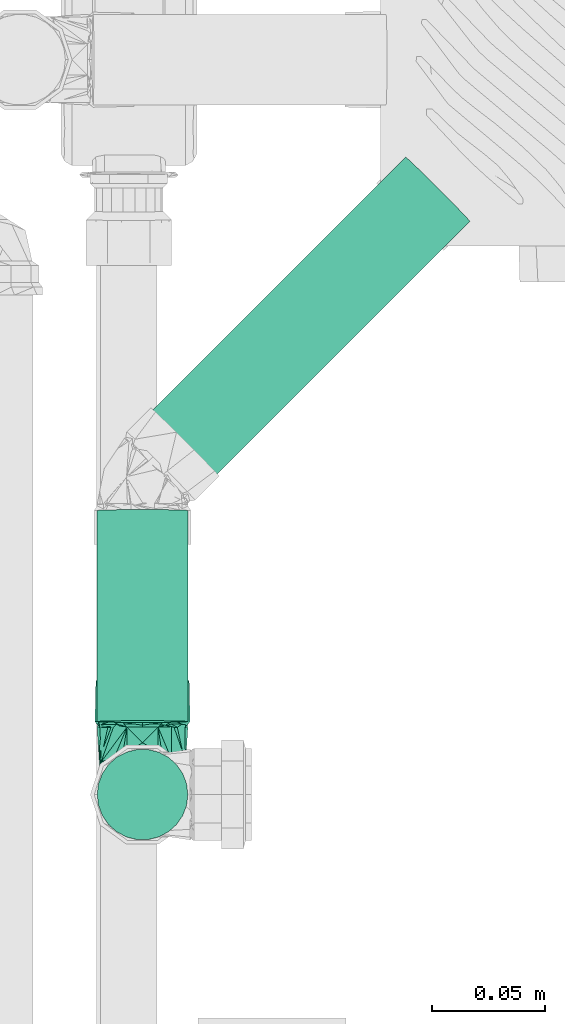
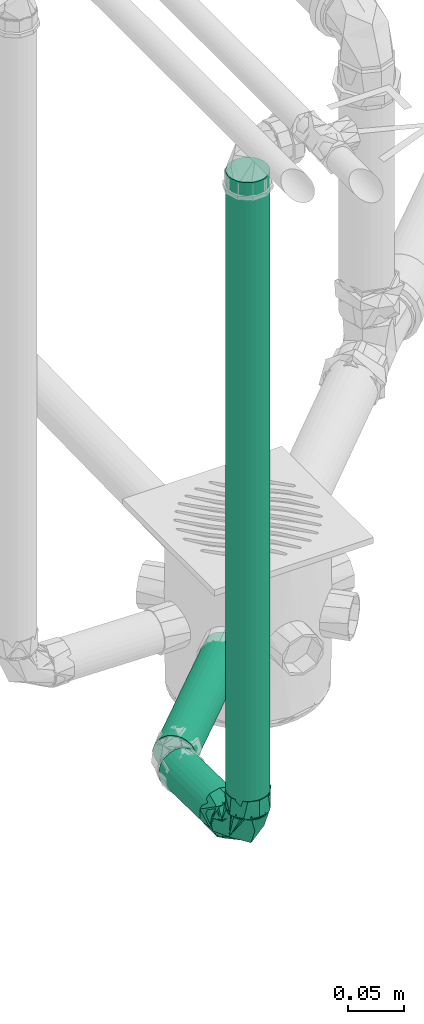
# One storey, part 194 of 589: 3 flow segments, 1 flow fitting.
"""IFC2X3 building model written with IfcOpenShell, lengths in millimetres."""

from ifc_helpers import new_model, entity, si_unit, converted_unit, derived_unit, direction, frame, frame_2d, origin, place, context, subcontext, project, spatial, circle, extrude, faceted_brep, source, transform, mapped, material, type_object, type_shapes, element, save


model = new_model("IFC2X3")

# Units and contexts
model_context = context("Model", 3, precision=0.01, world=origin(), true_north=direction((6.123031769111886e-17, 1.0)))
body_context = subcontext(model_context, "Body", "Model", "MODEL_VIEW")
ifc_project = project(units=[si_unit("LENGTHUNIT", "METRE", prefix="MILLI"), si_unit("AREAUNIT", "SQUARE_METRE"), si_unit("VOLUMEUNIT", "CUBIC_METRE"), converted_unit("PLANEANGLEUNIT", "DEGREE", entity("IfcRatioMeasure", 0.017453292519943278), si_unit("PLANEANGLEUNIT", "RADIAN"), dimensions=[0, 0, 0, 0, 0, 0, 0]), si_unit("MASSUNIT", "GRAM", prefix="KILO"), derived_unit("MASSDENSITYUNIT", [(si_unit("MASSUNIT", "GRAM", prefix="KILO"), 1), (si_unit("LENGTHUNIT", "METRE"), -3)]), derived_unit("IONCONCENTRATIONUNIT", [(si_unit("MASSUNIT", "GRAM", prefix="KILO"), 1), (si_unit("LENGTHUNIT", "METRE"), -3)]), derived_unit("MOMENTOFINERTIAUNIT", [(si_unit("LENGTHUNIT", "METRE"), 4)]), si_unit("TIMEUNIT", "SECOND"), si_unit("FREQUENCYUNIT", "HERTZ"), si_unit("THERMODYNAMICTEMPERATUREUNIT", "DEGREE_CELSIUS"), derived_unit("THERMALTRANSMITTANCEUNIT", [(si_unit("MASSUNIT", "GRAM", prefix="KILO"), 1), (si_unit("THERMODYNAMICTEMPERATUREUNIT", "KELVIN"), -1), (si_unit("TIMEUNIT", "SECOND"), -3)]), derived_unit("THERMALCONDUCTANCEUNIT", [(si_unit("MASSUNIT", "GRAM", prefix="KILO"), 1), (si_unit("THERMODYNAMICTEMPERATUREUNIT", "KELVIN"), -1), (si_unit("TIMEUNIT", "SECOND"), -3), (si_unit("LENGTHUNIT", "METRE"), 1)]), derived_unit("VOLUMETRICFLOWRATEUNIT", [(si_unit("LENGTHUNIT", "METRE"), 3), (si_unit("TIMEUNIT", "SECOND"), -1)]), derived_unit("MASSFLOWRATEUNIT", [(si_unit("MASSUNIT", "GRAM", prefix="KILO"), 1), (si_unit("TIMEUNIT", "SECOND"), -1)]), derived_unit("ROTATIONALFREQUENCYUNIT", [(si_unit("TIMEUNIT", "SECOND"), -1)]), si_unit("ELECTRICCURRENTUNIT", "AMPERE"), si_unit("ELECTRICVOLTAGEUNIT", "VOLT"), si_unit("POWERUNIT", "WATT"), si_unit("FORCEUNIT", "NEWTON", prefix="KILO"), si_unit("ILLUMINANCEUNIT", "LUX"), si_unit("LUMINOUSFLUXUNIT", "LUMEN"), si_unit("LUMINOUSINTENSITYUNIT", "CANDELA"), derived_unit("USERDEFINED", [(si_unit("MASSUNIT", "GRAM", prefix="KILO"), -1), (si_unit("LENGTHUNIT", "METRE"), -2), (si_unit("TIMEUNIT", "SECOND"), 3), (si_unit("LUMINOUSFLUXUNIT", "LUMEN"), 1)]), derived_unit("USERDEFINED", [(si_unit("MASSUNIT", "GRAM", prefix="KILO"), 1), (si_unit("TIMEUNIT", "SECOND"), -3), (si_unit("LENGTHUNIT", "METRE"), 3), (si_unit("ELECTRICCURRENTUNIT", "AMPERE"), -2)]), derived_unit("SOUNDPOWERUNIT", [(si_unit("MASSUNIT", "GRAM", prefix="KILO"), 1), (si_unit("TIMEUNIT", "SECOND"), -3), (si_unit("LENGTHUNIT", "METRE"), 2)]), derived_unit("SOUNDPRESSUREUNIT", [(si_unit("MASSUNIT", "GRAM", prefix="KILO"), 1), (si_unit("LENGTHUNIT", "METRE"), -1), (si_unit("TIMEUNIT", "SECOND"), -2)]), derived_unit("LINEARVELOCITYUNIT", [(si_unit("LENGTHUNIT", "METRE"), 1), (si_unit("TIMEUNIT", "SECOND"), -1)]), si_unit("PRESSUREUNIT", "PASCAL"), derived_unit("USERDEFINED", [(si_unit("MASSUNIT", "GRAM", prefix="KILO"), 1), (si_unit("LENGTHUNIT", "METRE"), -2), (si_unit("TIMEUNIT", "SECOND"), -2)]), derived_unit("LINEARFORCEUNIT", [(si_unit("MASSUNIT", "GRAM", prefix="KILO"), 1), (si_unit("TIMEUNIT", "SECOND"), -2)]), derived_unit("PLANARFORCEUNIT", [(si_unit("MASSUNIT", "GRAM", prefix="KILO"), 1), (si_unit("LENGTHUNIT", "METRE"), -1), (si_unit("TIMEUNIT", "SECOND"), -2)]), derived_unit("SPECIFICHEATCAPACITYUNIT", [(si_unit("THERMODYNAMICTEMPERATUREUNIT", "KELVIN"), -1), (si_unit("LENGTHUNIT", "METRE"), 2), (si_unit("TIMEUNIT", "SECOND"), -2)]), derived_unit("HEATINGVALUEUNIT", [(si_unit("LENGTHUNIT", "METRE"), 2), (si_unit("TIMEUNIT", "SECOND"), -2)]), derived_unit("VAPORPERMEABILITYUNIT", [(si_unit("LENGTHUNIT", "METRE"), -1), (si_unit("TIMEUNIT", "SECOND"), 1)]), derived_unit("DYNAMICVISCOSITYUNIT", [(si_unit("MASSUNIT", "GRAM", prefix="KILO"), 1), (si_unit("TIMEUNIT", "SECOND"), -1), (si_unit("LENGTHUNIT", "METRE"), -1)]), derived_unit("THERMALEXPANSIONCOEFFICIENTUNIT", [(si_unit("THERMODYNAMICTEMPERATUREUNIT", "KELVIN"), -1)]), derived_unit("MODULUSOFELASTICITYUNIT", [(si_unit("MASSUNIT", "GRAM", prefix="KILO"), 1), (si_unit("LENGTHUNIT", "METRE"), -1), (si_unit("TIMEUNIT", "SECOND"), -2)]), derived_unit("ISOTHERMALMOISTURECAPACITYUNIT", [(si_unit("LENGTHUNIT", "METRE"), 3), (si_unit("MASSUNIT", "GRAM", prefix="KILO"), -1)]), derived_unit("MOISTUREDIFFUSIVITYUNIT", [(si_unit("TIMEUNIT", "SECOND"), -1), (si_unit("LENGTHUNIT", "METRE"), 2)])], contexts=[model_context])

# Site, building, storey
site_placement = place(None, origin())
site = spatial("IfcSite", under=ifc_project, at=site_placement, Name="Default", CompositionType="ELEMENT")
building_placement = place(site_placement, origin())
building = spatial("IfcBuilding", under=site, at=building_placement, CompositionType="ELEMENT")
storey_placement = place(building_placement, frame((0.0, 0.0, 100.0)))
storey = spatial("IfcBuildingStorey", under=building, at=storey_placement, Name="TÉRREO", CompositionType="ELEMENT", Elevation=100.0)

# Flow segments
pipe_segment_type = type_object("IfcPipeSegmentType", Name="Tipos de tubos:PVC Esgoto Série Normal", PredefinedType="NOTDEFINED")
flow_segment_1_placement = place(storey_placement, origin())
element("IfcFlowSegment", 1, at=flow_segment_1_placement, inside=storey, type_object=pipe_segment_type, Name="Tipos de tubos:PVC Esgoto Série Normal", ObjectType="Tipos de tubos:PVC Esgoto Série Normal", context=body_context, shape_type="SweptSolid", body=[
    extrude(circle(Radius=20.0, at=frame_2d((9.571283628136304e-14, -1.5002541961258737e-14), x_axis=(1.0, 0.0))), frame((7370.017480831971, -654.9828076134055, -250.88561498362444), z_axis=(0.7069654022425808, 0.7069654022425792, -0.019996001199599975), x_axis=(-0.7071067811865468, 0.7071067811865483, 0.0)), (0.0, 0.0, 1.0), 172.6549831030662),
])
flow_segment_2_placement = place(storey_placement, origin())
element("IfcFlowSegment", 2, at=flow_segment_2_placement, inside=storey, type_object=pipe_segment_type, Name="Tipos de tubos:PVC Esgoto Série Normal", ObjectType="Tipos de tubos:PVC Esgoto Série Normal", context=body_context, shape_type="SweptSolid", body=[
    extrude(circle(Radius=20.0, at=frame_2d((0.0, -1.6916415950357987e-14), x_axis=(1.0, 0.0))), frame((7361.889890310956, -767.6769709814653, -248.56440055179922), z_axis=(0.0, 0.9998000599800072, -0.01999600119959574), x_axis=(1.0, 0.0, 0.0)), (0.0, 0.0, 1.0), 93.09103672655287),
])
flow_segment_3_placement = place(storey_placement, origin())
element("IfcFlowSegment", 3, at=flow_segment_3_placement, inside=storey, type_object=pipe_segment_type, Name="Tipos de tubos:PVC Esgoto Série Normal", ObjectType="Tipos de tubos:PVC Esgoto Série Normal", context=body_context, shape_type="SweptSolid", body=[
    extrude(circle(Radius=20.0, at=frame_2d((1.9993378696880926e-18, 0.0), x_axis=(1.0, 0.0))), frame((7361.889890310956, -799.8765311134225, -215.71440994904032)), (0.0, 0.0, 1.0), 693.914410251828),
])

# Flow fitting
ifc_material = material(Name="PVC Branco")
pipe_fitting_type = type_object("IfcPipeFittingType", Name="PVC Esgoto_Curva 90° Curta:a. Série Normal", PredefinedType="NOTDEFINED", material=ifc_material)
shared_shape = source(origin(), body_context, "Body", "Brep", [
    faceted_brep([(17.961036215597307, 31.85321923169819, 10.0), (20.63999240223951, 31.79964010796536, 0.0), (17.961036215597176, 31.853219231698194, -10.0), (5.819337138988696, 32.09605321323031, -19.318516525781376), (-4.531354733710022, 32.30306705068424, -19.31851652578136), (-16.67305381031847, 32.545901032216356, -10.0), (-19.352009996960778, 32.59948015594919, 0.0), (-16.673053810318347, 32.54590103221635, 10.0), (-4.531354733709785, 32.303067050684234, 19.318516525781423), (5.819337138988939, 32.096053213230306, 19.318516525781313), (19.378093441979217, 29.02431814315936, 6.84041311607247), (15.905813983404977, 29.093763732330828, 12.855768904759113), (20.584003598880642, 29.000199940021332, 0.0), (7.427001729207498, 29.263339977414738, 18.793865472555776), (0.5880023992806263, 29.40011996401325, 20.0), (-12.265223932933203, 29.657184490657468, 15.320851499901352), (-18.202100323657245, 29.775922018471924, 6.840381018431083), (-19.407998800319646, 29.800039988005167, 0.0), (-6.251109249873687, 29.536902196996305, 18.79382458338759), (-18.202100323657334, 29.775922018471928, -6.840381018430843), (-14.729853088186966, 29.70647707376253, -12.855716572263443), (-6.25110924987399, 29.53690219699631, -18.79382458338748), (0.588002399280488, 29.40011996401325, -20.0), (13.441163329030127, 29.143056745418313, -15.32090639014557), (19.378093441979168, 29.02431814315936, -6.8404131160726), (7.427001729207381, 29.263339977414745, -18.79386547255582), (-11.35075352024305, -12.626805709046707, 0.0), (-29.405999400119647, -18.793848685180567, 6.8404131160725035), (-29.405999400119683, -19.396924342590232, 3.420206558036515), (-29.405999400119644, -20.0, 0.0), (-29.40599940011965, -15.320874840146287, 12.855768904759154), (-29.405999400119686, -17.057361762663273, 9.848091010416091), (-2.3339581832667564, 2.3811033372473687, 18.02101843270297), (-29.40599940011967, -6.840366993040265, 18.793865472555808), (-29.405999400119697, -11.080620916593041, 15.824817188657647), (-29.405999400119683, 0.0, 20.0), (-29.40599940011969, -3.420183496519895, 19.396932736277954), (-12.878045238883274, 13.138181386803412, 18.95216884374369), (12.851249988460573, 11.095996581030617, 0.0), (5.594072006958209, -5.707072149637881, 0.0), (-29.405999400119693, 6.840479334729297, 18.79382458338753), (-29.405999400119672, 3.4202396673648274, 19.396912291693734), (-29.405999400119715, 18.793860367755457, 6.840381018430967), (-29.405999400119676, 15.824828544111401, 11.080616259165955), (-29.405999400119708, 12.855796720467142, 15.320851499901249), (-22.405985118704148, 22.858585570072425, 0.0), (-29.40599940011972, 20.0, 0.0), (-29.405999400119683, 19.396930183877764, 3.4201905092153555), (-29.405999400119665, 9.848138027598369, 17.0573380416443), (-14.138248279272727, 14.423838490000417, -18.24666465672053), (-29.405999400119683, 0.0, -20.0), (-29.40599940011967, 3.4202396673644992, -19.396912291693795), (-29.405999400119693, 6.840479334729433, -18.79382458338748), (-29.405999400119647, -18.79384868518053, -6.840413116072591), (-29.40599940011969, -15.824789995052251, -11.080659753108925), (-29.405999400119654, -12.85573130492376, -15.32090639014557), (-2.333957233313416, 2.3811024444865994, -18.021017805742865), (-29.405999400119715, 18.793860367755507, -6.840381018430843), (-29.405999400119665, 11.080699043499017, -15.824770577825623), (-29.405999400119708, 15.320918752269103, -12.855716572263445), (-29.405999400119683, -19.396924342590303, -3.420206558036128), (-29.405999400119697, -9.848049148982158, -17.0573859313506), (-29.40599940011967, -6.840366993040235, -18.79386547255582), (-29.40599940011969, -3.420183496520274, -19.396932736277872), (-29.405999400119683, 19.39693018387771, -3.4201905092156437), (-29.405999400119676, 17.05738956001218, -9.848048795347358), (-30.20599940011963, -8.21241269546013, -16.988887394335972), (-30.20599940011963, -11.248444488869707, -14.659258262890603), (-30.20599940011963, -14.28447628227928, -12.329629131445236), (-30.20599940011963, -17.320508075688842, -10.0), (-30.20599940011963, -18.66025403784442, -5.0), (-30.20599940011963, -20.0, 0.0), (-30.20599940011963, -18.660254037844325, 5.0), (-30.20599940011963, -17.320508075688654, 10.0), (-30.20599940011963, -14.284476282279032, 12.329629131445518), (-30.20599940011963, -11.248444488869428, 14.659258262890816), (-30.20599940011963, -8.21241269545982, 16.988887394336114), (-30.20599940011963, -5.1763809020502, 19.318516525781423), (-30.20599940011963, 0.0, 19.31851652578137), (-30.20599940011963, 5.176380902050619, 19.318516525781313), (-30.20599940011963, 8.21241269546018, 16.98888739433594), (-30.20599940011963, 11.248444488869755, 14.65925826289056), (-30.205999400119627, 14.284476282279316, 12.329629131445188), (-30.20599940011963, 17.320508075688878, 10.0), (-30.20599940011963, 18.66025403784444, 5.0), (-30.20599940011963, 20.0, 0.0), (-30.20599940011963, 18.66025403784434, -5.0), (-30.20599940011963, 17.32050807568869, -10.0), (-30.20599940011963, 14.284476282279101, -12.329629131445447), (-30.20599940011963, 11.24844448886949, -14.659258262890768), (-30.20599940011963, 8.212412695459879, -16.988887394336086), (-30.20599940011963, 5.1763809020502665, -19.318516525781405), (-30.20599940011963, 0.0, -19.318516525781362), (-30.20599940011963, -5.176380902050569, -19.318516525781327)], [[[0, 1, 2, 3, 4, 5, 6, 7, 8, 9]], [[10, 1, 0]], [[11, 0, 9]], [[12, 1, 10]], [[11, 10, 0]], [[13, 11, 9]], [[9, 14, 13]], [[15, 8, 7]], [[7, 6, 16]], [[17, 16, 6]], [[14, 8, 18]], [[15, 18, 8]], [[16, 15, 7]], [[8, 14, 9]], [[19, 6, 5]], [[20, 5, 4]], [[17, 6, 19]], [[20, 19, 5]], [[21, 20, 4]], [[4, 22, 21]], [[23, 3, 2]], [[2, 1, 24]], [[12, 24, 1]], [[22, 3, 25]], [[23, 25, 3]], [[24, 23, 2]], [[3, 22, 4]], [[26, 27, 28, 29]], [[26, 30, 31, 27]], [[32, 33, 34, 30]], [[32, 35, 36, 33]], [[35, 32, 37]], [[11, 38, 10]], [[26, 32, 30]], [[32, 39, 38]], [[37, 40, 41, 35]], [[37, 42, 43, 44]], [[45, 46, 47, 42]], [[16, 45, 42]], [[37, 44, 48, 40]], [[39, 32, 26]], [[14, 18, 37]], [[32, 11, 13]], [[14, 37, 32]], [[32, 38, 11]], [[12, 10, 38]], [[45, 16, 17]], [[37, 15, 16]], [[37, 16, 42]], [[15, 37, 18]], [[32, 13, 14]], [[49, 50, 51, 52]], [[49, 21, 22]], [[26, 53, 54, 55]], [[56, 39, 26]], [[49, 57, 19]], [[49, 52, 58, 59]], [[56, 50, 49]], [[26, 29, 60, 53]], [[56, 55, 61, 62]], [[56, 62, 63, 50]], [[26, 55, 56]], [[45, 57, 64, 46]], [[45, 17, 19]], [[24, 12, 38]], [[23, 56, 25]], [[49, 20, 21]], [[49, 19, 20]], [[56, 49, 22]], [[56, 23, 38]], [[49, 59, 65, 57]], [[38, 39, 56]], [[24, 38, 23]], [[56, 22, 25]], [[19, 57, 45]], [[66, 67, 68, 69, 70, 71, 72, 73, 74, 75, 76, 77, 78, 79, 80, 81, 82, 83, 84, 85, 86, 87, 88, 89, 90, 91, 92, 93]], [[47, 46, 85]], [[33, 77, 76]], [[80, 40, 48]], [[48, 44, 81]], [[33, 76, 34]], [[81, 80, 48]], [[84, 83, 42]], [[82, 81, 44]], [[73, 72, 27]], [[85, 84, 47]], [[78, 41, 79]], [[77, 36, 78]], [[30, 75, 74, 73]], [[73, 27, 31, 30]], [[77, 33, 36]], [[71, 28, 72]], [[44, 43, 82]], [[36, 35, 78]], [[41, 40, 79]], [[34, 76, 75]], [[43, 42, 83]], [[75, 30, 34]], [[41, 78, 35]], [[84, 42, 47]], [[80, 79, 40]], [[43, 83, 82]], [[28, 71, 29]], [[28, 27, 72]], [[60, 29, 71]], [[52, 91, 90]], [[66, 62, 61]], [[61, 55, 67]], [[52, 90, 58]], [[67, 66, 61]], [[70, 69, 53]], [[68, 67, 55]], [[87, 86, 57]], [[71, 70, 60]], [[92, 63, 93]], [[91, 51, 92]], [[59, 89, 88, 87]], [[87, 57, 65, 59]], [[91, 52, 51]], [[85, 64, 86]], [[55, 54, 68]], [[51, 50, 92]], [[63, 62, 93]], [[90, 89, 58]], [[54, 53, 69]], [[89, 59, 58]], [[63, 92, 50]], [[70, 53, 60]], [[66, 93, 62]], [[54, 69, 68]], [[64, 85, 46]], [[64, 57, 86]]]),
    faceted_brep([(-32.20599940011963, -17.320508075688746, -10.0), (-32.20599940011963, -20.0, 0.0), (-32.20599940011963, -17.320508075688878, 10.0), (-32.20599940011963, -5.176380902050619, 19.318516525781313), (-32.20599940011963, 5.1763809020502, 19.318516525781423), (-32.20599940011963, 17.320508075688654, 10.0), (-32.20599940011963, 20.0, 0.0), (-32.20599940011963, 17.320508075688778, -10.0), (-32.20599940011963, 5.17638090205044, -19.31851652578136), (-32.20599940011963, -5.176380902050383, -19.318516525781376), (-29.40599940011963, -20.0, 0.0), (-29.40599940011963, -15.320920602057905, 12.855714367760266), (-29.40599940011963, 3.4728419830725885, 19.696176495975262), (-29.40599940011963, 15.320777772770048, 12.855884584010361), (-29.40599940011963, 20.0, 0.0), (-29.40599940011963, 15.320777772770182, -12.855884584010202), (-29.405999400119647, 5.923858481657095, -16.27601124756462), (-29.40599940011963, -3.473060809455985, -19.69613791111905), (-29.40599940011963, -15.320920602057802, -12.855714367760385), (12.85124998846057, 11.095996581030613, 0.0), (19.378093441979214, 29.024318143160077, 6.8404131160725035), (16.409628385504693, 29.083687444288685, 11.080659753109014), (13.441163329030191, 29.143056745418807, 15.320906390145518), (5.594072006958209, -5.707072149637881, 0.0), (-3.0189256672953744, 1.4413580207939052, 17.919138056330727), (-11.350753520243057, -12.626805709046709, 0.0), (-13.807968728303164, 12.593198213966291, 18.87014454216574), (-6.251109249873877, 29.53690219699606, 18.793824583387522), (-10.490481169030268, 29.621689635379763, 15.824770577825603), (-14.729853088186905, 29.70647707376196, 12.855716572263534), (-22.405985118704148, 22.858585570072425, 0.0), (-18.20210032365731, 29.775922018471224, 6.84038101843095), (-18.805049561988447, 29.787981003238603, 3.4201905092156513), (-19.407998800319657, 29.80003998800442, 0.0), (7.427001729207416, 29.26333997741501, 18.793865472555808), (4.007502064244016, 29.331729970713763, 19.396932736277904), (0.5880023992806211, 29.400119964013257, 20.0), (10.434082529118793, 29.203198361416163, 17.057385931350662), (20.58400359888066, 29.000199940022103, 0.0), (19.981048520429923, 29.012259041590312, 3.420206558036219), (-2.8315534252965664, 29.46851108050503, 19.396912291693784), (-16.465976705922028, 29.74119954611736, 9.84804879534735), (-12.878069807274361, 13.13814230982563, -18.95217245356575), (-12.265223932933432, 29.657184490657, -15.32085149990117), (-9.258166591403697, 29.59704334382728, -17.057338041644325), (-6.251109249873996, 29.53690219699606, -18.79382458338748), (-18.202100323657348, 29.775922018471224, -6.840381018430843), (-2.142006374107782, 2.6554433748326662, -18.049846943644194), (-18.80504956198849, 29.787981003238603, -3.4201905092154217), (-15.233662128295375, 29.716553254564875, -11.080616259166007), (19.378093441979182, 29.02431814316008, -6.840413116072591), (19.981048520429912, 29.012259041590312, -3.4202065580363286), (0.5880023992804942, 29.400119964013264, -20.0), (4.0075020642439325, 29.331729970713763, -19.396932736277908), (7.427001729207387, 29.26333997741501, -18.79386547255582), (11.666407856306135, 29.178551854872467, -15.824817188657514), (15.905813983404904, 29.09376373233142, -12.855768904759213), (17.64195371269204, 29.05904093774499, -9.8480910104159), (-2.831553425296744, 29.46851108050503, -19.39691229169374), (-4.571346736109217, 30.303466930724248, -19.31851652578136), (-7.60677150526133, 30.364175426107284, -16.988887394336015), (-10.64219627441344, 30.424883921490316, -14.659258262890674), (-13.677621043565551, 30.48559241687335, -12.329629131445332), (-16.713045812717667, 30.54630091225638, -10.0), (-18.052523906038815, 30.573090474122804, -5.0), (-19.392001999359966, 30.599880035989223, 0.0), (-18.052523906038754, 30.573090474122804, 5.0), (-16.71304581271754, 30.54630091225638, 10.0), (-13.67762104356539, 30.48559241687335, 12.329629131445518), (-10.642196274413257, 30.424883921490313, 14.659258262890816), (-7.606771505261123, 30.364175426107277, 16.988887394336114), (-4.571346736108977, 30.303466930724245, 19.318516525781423), (0.6039992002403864, 30.199960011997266, 19.31851652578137), (5.779345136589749, 30.096453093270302, 19.318516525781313), (8.814769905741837, 30.035744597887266, 16.98888739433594), (11.85019467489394, 29.975036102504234, 14.65925826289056), (14.885619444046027, 29.9143276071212, 12.329629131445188), (17.92104421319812, 29.853619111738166, 10.0), (19.26052230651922, 29.82682954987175, 5.0), (20.60000039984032, 29.80003998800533, 0.0), (19.260522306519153, 29.82682954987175, -5.0), (17.921044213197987, 29.85361911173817, -10.0), (14.885619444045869, 29.914327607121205, -12.329629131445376), (11.850194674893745, 29.975036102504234, -14.659258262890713), (8.814769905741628, 30.03574459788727, -16.988887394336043), (5.779345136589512, 30.096453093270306, -19.318516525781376), (0.6039992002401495, 30.199960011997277, -19.31851652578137)], [[[0, 1, 2, 3, 4, 5, 6, 7, 8, 9]], [[10, 11, 2]], [[10, 2, 1]], [[2, 11, 3]], [[11, 12, 3]], [[4, 12, 13]], [[5, 13, 14]], [[13, 5, 4]], [[5, 14, 6]], [[12, 4, 3]], [[14, 15, 7]], [[14, 7, 6]], [[7, 15, 8]], [[8, 15, 16, 17]], [[9, 17, 18]], [[0, 18, 10]], [[18, 0, 9]], [[0, 10, 1]], [[17, 9, 8]], [[19, 20, 21, 22]], [[23, 24, 25]], [[26, 13, 12]], [[25, 24, 11]], [[24, 23, 19]], [[26, 27, 28, 29]], [[14, 13, 30]], [[11, 10, 25]], [[30, 31, 32, 33]], [[31, 30, 13]], [[24, 34, 35, 36]], [[24, 26, 12]], [[24, 22, 37, 34]], [[11, 24, 12]], [[19, 38, 39, 20]], [[26, 36, 40, 27]], [[13, 29, 41, 31]], [[13, 26, 29]], [[36, 26, 24]], [[22, 24, 19]], [[15, 14, 30]], [[42, 43, 44, 45]], [[15, 30, 46]], [[16, 15, 42, 17]], [[47, 25, 18]], [[47, 18, 17]], [[42, 15, 46]], [[30, 33, 48, 46]], [[42, 46, 49, 43]], [[19, 50, 51, 38]], [[47, 52, 53, 54]], [[47, 54, 55, 56]], [[42, 52, 47]], [[19, 56, 57, 50]], [[25, 47, 23]], [[19, 23, 47]], [[25, 10, 18]], [[19, 47, 56]], [[17, 42, 47]], [[42, 45, 58, 52]], [[59, 60, 61, 62, 63, 64, 65, 66, 67, 68, 69, 70, 71, 72, 73, 74, 75, 76, 77, 78, 79, 80, 81, 82, 83, 84, 85, 86]], [[39, 38, 79]], [[21, 77, 76]], [[74, 34, 37]], [[37, 22, 75]], [[79, 78, 39]], [[75, 74, 37]], [[74, 73, 34]], [[76, 75, 22]], [[22, 21, 76]], [[78, 77, 20]], [[72, 35, 73]], [[27, 70, 28]], [[29, 69, 68, 67]], [[67, 31, 41, 29]], [[71, 27, 40]], [[65, 32, 66]], [[71, 40, 72]], [[40, 36, 72]], [[67, 66, 31]], [[28, 70, 69]], [[35, 34, 73]], [[69, 29, 28]], [[35, 72, 36]], [[78, 20, 39]], [[21, 20, 77]], [[27, 71, 70]], [[32, 65, 33]], [[32, 31, 66]], [[48, 33, 65]], [[54, 85, 84]], [[60, 45, 44]], [[44, 43, 61]], [[54, 84, 55]], [[61, 60, 44]], [[64, 63, 46]], [[62, 61, 43]], [[81, 80, 50]], [[65, 64, 48]], [[86, 58, 59]], [[85, 53, 86]], [[56, 83, 82, 81]], [[81, 50, 57, 56]], [[85, 54, 53]], [[79, 51, 80]], [[43, 49, 62]], [[53, 52, 86]], [[58, 45, 59]], [[55, 84, 83]], [[49, 46, 63]], [[83, 56, 55]], [[58, 86, 52]], [[64, 46, 48]], [[60, 59, 45]], [[49, 63, 62]], [[51, 79, 38]], [[51, 50, 80]]]),
    faceted_brep([(5.819337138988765, 32.09605321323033, 19.31851652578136), (17.961036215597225, 31.853219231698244, 10.0), (20.63999240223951, 31.799640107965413, 0.0), (17.96103621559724, 31.853219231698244, -10.0), (5.8193371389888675, 32.09605321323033, -19.318516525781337), (-4.531354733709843, 32.30306705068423, -19.31851652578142), (-16.67305381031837, 32.54590103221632, -10.0), (-19.352009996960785, 32.59948015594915, 0.0), (-16.673053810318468, 32.54590103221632, 10.0), (-4.531354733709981, 32.303067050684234, 19.318516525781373), (-4.571346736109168, 30.303466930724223, 19.318516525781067), (-16.713045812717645, 30.54630091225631, 10.0), (-19.39200199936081, 30.599880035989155, 0.0), (-16.713045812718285, 30.546300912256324, -10.0), (-4.571346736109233, 30.303466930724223, -19.318516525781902), (5.779345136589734, 30.096453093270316, -19.31851652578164), (17.92104421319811, 29.853619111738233, -10.0), (20.60000039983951, 29.800039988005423, 0.0), (17.92104421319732, 29.853619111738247, 10.0), (5.779345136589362, 30.096453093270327, 19.31851652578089), (16.960145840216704, 31.873237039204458, -13.688192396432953), (21.93973248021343, 31.77364530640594, 0.0), (4.344880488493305, 32.12554234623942, -20.97588948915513), (-20.651750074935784, 32.625474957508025, 0.0), (-15.668729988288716, 32.52581455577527, -13.692285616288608), (-5.661924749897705, 32.32567845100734, -17.33408755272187), (-15.668729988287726, 32.52581455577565, 13.69228561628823), (-3.0516373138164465, 32.27347270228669, 20.976817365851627), (16.960145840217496, 31.87323703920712, 13.688192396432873), (6.954254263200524, 32.073354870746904, 17.332504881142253), (-4.507824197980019, 50.30619608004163, -20.574220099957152), (-4.171426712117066, 50.29946813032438, -19.318516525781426), (6.1792651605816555, 50.09245429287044, -19.318516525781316), (-17.438733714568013, 50.56481427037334, -10.649999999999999), (6.515662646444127, 50.0857263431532, -20.57422009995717), (-16.31312578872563, 50.54230211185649, -10.0), (-18.99208197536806, 50.59588123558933, 0.0), (-20.29182205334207, 50.62187603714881, 0.0), (-16.313125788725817, 50.54230211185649, 10.0), (-17.438733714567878, 50.56481427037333, 10.650000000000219), (-4.1714267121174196, 50.29946813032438, 19.318516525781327), (-4.5078241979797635, 50.30619608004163, 20.574220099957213), (6.179265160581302, 50.09245429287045, 19.3185165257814), (6.515662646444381, 50.08572634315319, 20.574220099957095), (18.320964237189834, 49.84962031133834, 10.0), (19.446572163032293, 49.827108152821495, 10.649999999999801), (22.299660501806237, 49.770046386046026, 0.0), (20.99992042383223, 49.796041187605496, 0.0), (19.44657216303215, 49.8271081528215, -10.650000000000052), (18.320964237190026, 49.84962031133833, -10.0)], [[[0, 1, 2, 3, 4, 5, 6, 7, 8, 9]], [[10, 11, 12, 13, 14, 15, 16, 17, 18, 19]], [[16, 15, 20]], [[17, 16, 21]], [[21, 16, 20]], [[15, 22, 20]], [[23, 13, 12]], [[24, 14, 13]], [[15, 14, 22]], [[23, 24, 13]], [[25, 22, 14, 24]], [[11, 10, 26]], [[12, 11, 23]], [[23, 11, 26]], [[10, 27, 26]], [[21, 18, 17]], [[28, 19, 18]], [[10, 19, 27]], [[21, 28, 18]], [[29, 27, 19, 28]], [[30, 31, 32]], [[31, 30, 33]], [[32, 34, 30]], [[33, 35, 31]], [[33, 36, 35]], [[36, 33, 37]], [[38, 36, 37]], [[38, 37, 39]], [[39, 40, 38]], [[39, 41, 40]], [[40, 41, 42]], [[43, 42, 41]], [[43, 44, 42]], [[44, 43, 45]], [[46, 44, 45]], [[47, 44, 46]], [[48, 47, 46]], [[48, 49, 47]], [[49, 48, 34]], [[34, 32, 49]], [[46, 45, 21]], [[45, 28, 21]], [[28, 45, 43]], [[43, 27, 29, 28]], [[26, 41, 39]], [[23, 39, 37]], [[41, 26, 27]], [[26, 39, 23]], [[41, 27, 43]], [[37, 33, 23]], [[33, 24, 23]], [[24, 33, 30]], [[30, 22, 25, 24]], [[20, 34, 48]], [[21, 48, 46]], [[34, 20, 22]], [[20, 48, 21]], [[34, 22, 30]], [[3, 2, 47, 49]], [[4, 3, 49, 32]], [[32, 31, 5, 4]], [[6, 5, 31, 35]], [[7, 6, 35, 36]], [[8, 7, 36, 38]], [[9, 8, 38, 40]], [[40, 42, 0, 9]], [[1, 0, 42, 44]], [[2, 1, 44, 47]]]),
    faceted_brep([(-50.20599940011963, -5.512845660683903, -20.574220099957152), (-50.20599940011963, -5.176380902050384, -19.318516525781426), (-50.20599940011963, 5.176380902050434, -19.318516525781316), (-50.20599940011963, -18.446341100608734, -10.649999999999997), (-50.20599940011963, 5.512845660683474, -20.57422009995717), (-50.20599940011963, -17.320508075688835, -10.0), (-50.20599940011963, -20.0, 0.0), (-50.20599940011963, -21.300000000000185, 0.0), (-50.20599940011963, -17.320508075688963, 10.0), (-50.20599940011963, -18.4463411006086, 10.650000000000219), (-50.20599940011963, -5.176380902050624, 19.318516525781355), (-50.20599940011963, -5.512845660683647, 20.574220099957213), (-50.20599940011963, 5.176380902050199, 19.318516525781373), (-50.20599940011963, 5.512845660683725, 20.574220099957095), (-50.20599940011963, 17.320508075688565, 10.0), (-50.20599940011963, 18.44634110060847, 10.649999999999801), (-50.20599940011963, 21.299999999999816, 0.0), (-50.20599940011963, 20.0, 0.0), (-50.20599940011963, 18.446341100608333, -10.650000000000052), (-50.20599940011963, 17.320508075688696, -10.0), (-32.20599940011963, 21.299999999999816, 0.0), (-32.205999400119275, 16.319417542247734, 13.688192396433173), (-32.205999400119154, 3.701629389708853, 20.975889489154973), (-32.20599940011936, -16.315983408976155, 13.692285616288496), (-32.20599940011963, -21.300000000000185, 0.0), (-32.20599940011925, -6.307177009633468, 17.334087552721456), (-32.20599940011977, -16.31598340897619, -13.692285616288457), (-32.20599940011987, -3.6963675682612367, -20.976817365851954), (-32.2059994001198, 16.319417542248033, -13.688192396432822), (-32.20599940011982, 6.311524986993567, -17.332504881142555), (-32.20599940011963, -5.176380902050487, 19.31851652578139), (-32.20599940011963, 5.176380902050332, 19.318516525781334), (-32.20599940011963, 17.320508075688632, 10.0), (-32.20599940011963, 20.0, 0.0), (-32.20599940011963, 17.320508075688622, -10.0), (-32.20599940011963, 5.176380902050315, -19.318516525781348), (-32.20599940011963, -5.1763809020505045, -19.318516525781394), (-32.20599940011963, -17.3205080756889, -10.0), (-32.20599940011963, -20.0, 0.0), (-32.20599940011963, -17.32050807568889, 10.0), (-30.20599940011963, -5.176380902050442, 19.31851652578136), (-30.20599940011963, -17.320508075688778, 10.0), (-30.20599940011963, -20.0, 0.0), (-30.20599940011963, -17.320508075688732, -10.0), (-30.20599940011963, -5.176380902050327, -19.318516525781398), (-30.20599940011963, 5.176380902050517, -19.318516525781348), (-30.20599940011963, 17.320508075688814, -10.0), (-30.20599940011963, 20.0, 0.0), (-30.20599940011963, 17.320508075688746, 10.0), (-30.20599940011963, 5.176380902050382, 19.318516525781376)], [[[0, 1, 2]], [[1, 0, 3]], [[2, 4, 0]], [[3, 5, 1]], [[3, 6, 5]], [[6, 3, 7]], [[8, 6, 7]], [[8, 7, 9]], [[9, 10, 8]], [[9, 11, 10]], [[10, 11, 12]], [[13, 12, 11]], [[13, 14, 12]], [[14, 13, 15]], [[16, 14, 15]], [[17, 14, 16]], [[18, 17, 16]], [[18, 19, 17]], [[19, 18, 4]], [[4, 2, 19]], [[16, 15, 20]], [[15, 21, 20]], [[21, 15, 13]], [[21, 13, 22]], [[23, 11, 9]], [[24, 9, 7]], [[11, 23, 25, 22]], [[23, 9, 24]], [[11, 22, 13]], [[7, 3, 24]], [[3, 26, 24]], [[26, 3, 0]], [[26, 0, 27]], [[28, 4, 18]], [[20, 18, 16]], [[4, 28, 29, 27]], [[28, 18, 20]], [[4, 27, 0]], [[30, 31, 32, 33, 34, 35, 36, 37, 38, 39]], [[40, 41, 42, 43, 44, 45, 46, 47, 48, 49]], [[45, 28, 46]], [[47, 46, 20]], [[20, 46, 28]], [[27, 45, 44]], [[26, 44, 43]], [[24, 43, 42]], [[45, 27, 29, 28]], [[26, 27, 44]], [[24, 26, 43]], [[40, 23, 41]], [[42, 41, 24]], [[24, 41, 23]], [[22, 40, 49]], [[21, 49, 48]], [[20, 48, 47]], [[40, 22, 25, 23]], [[21, 22, 49]], [[20, 21, 48]], [[34, 33, 17, 19]], [[35, 34, 19, 2]], [[2, 1, 36, 35]], [[37, 36, 1, 5]], [[38, 37, 5, 6]], [[39, 38, 6, 8]], [[30, 39, 8, 10]], [[10, 12, 31, 30]], [[32, 31, 12, 14]], [[33, 32, 14, 17]]]),
])
type_shapes(pipe_fitting_type, [shared_shape])
flow_fitting_placement = place(storey_placement, frame((7361.889890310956, -799.8765311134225, -247.92040934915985), z_axis=(1.0, 0.0, 0.0), x_axis=(0.0, 0.0, -1.0)))
element("IfcFlowFitting", 4, at=flow_fitting_placement, inside=storey, type_object=pipe_fitting_type, material=ifc_material, Name="PVC Esgoto_Curva 90° Curta:a. Série Normal", ObjectType="PVC Esgoto_Curva 90° Curta:a. Série Normal", context=body_context, shape_type="MappedRepresentation", body=[
    mapped(shared_shape, transform((0.0, 0.0, 0.0), scale=1.0)),
])

save(model, "model.ifc")
